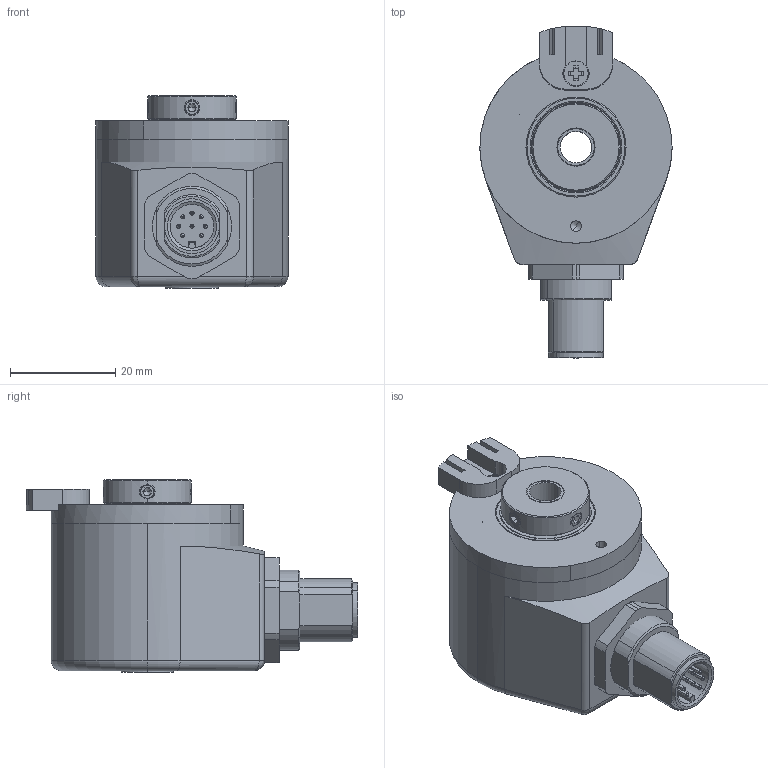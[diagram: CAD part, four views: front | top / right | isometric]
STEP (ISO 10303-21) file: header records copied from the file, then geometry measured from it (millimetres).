
FILE_DESCRIPTION (( 'STEP AP214' ), '1' );
FILE_NAME ('Step BG-36-H-06-XX-XXXX-X-1-XX-V025.STEP', '2013-11-28T15:07:59', ( 'IST GmbH' ), ( '' ), 'SwSTEP 2.0', 'SolidWorks 2009', '' );
FILE_SCHEMA (( 'AUTOMOTIVE_DESIGN' ));
Length unit declared in the file: millimetre
Products named in the file (1): Step BG-36-H-06-XX-XXXX-X-1-XX-V025
Bounding box: 36.5 x 62.99 x 36.5 mm (x, y, z)
Volume: 22242.1 mm3; surface area: 21199.7 mm2
Topology: 16 solids, 16 shells, 614 faces, 1458 edges, 904 vertices
Faces by surface type: plane 227, cylinder 215, cone 101, torus 48, bspline 23
Entity records: 26118 total; most frequent: CARTESIAN_POINT 4898, DIRECTION 3134, ORIENTED_EDGE 2872, EDGE_CURVE 1436, AXIS2_PLACEMENT_3D 1246, VERTEX_POINT 904, EDGE_LOOP 694, CIRCLE 654
